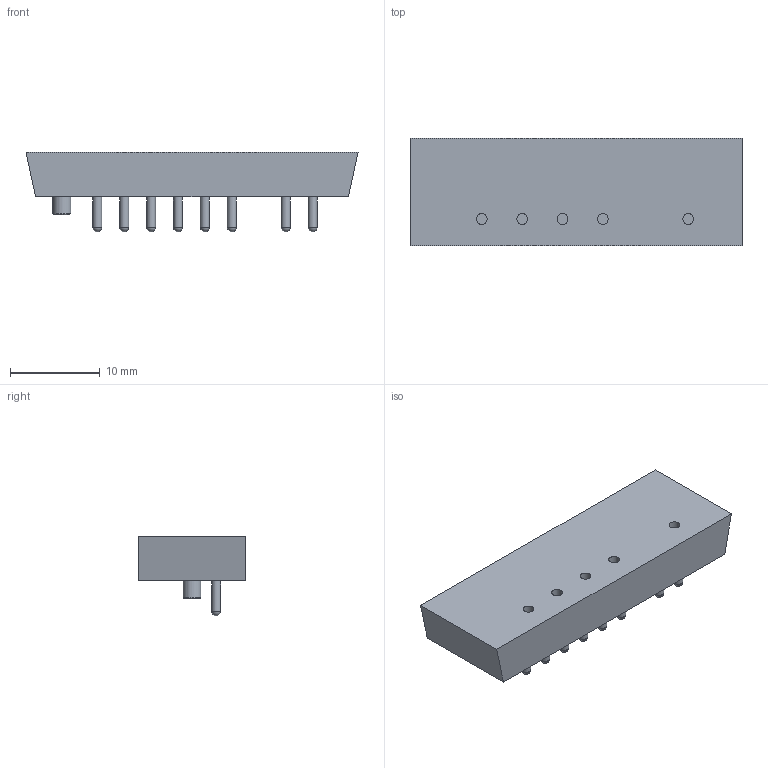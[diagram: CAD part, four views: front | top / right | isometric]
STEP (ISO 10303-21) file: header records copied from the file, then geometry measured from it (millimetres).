
FILE_DESCRIPTION(('STEP AP214'),'1');
FILE_NAME('Shorting link.stp','2017-09-01T11:49:35',(' '),(' '),'Spatial InterOp 3D',' ',' ');
FILE_SCHEMA(('automotive_design'));
Length unit declared in the file: millimetre
Products named in the file (4): Shorting link; Wire link
Assembly tree (10 placements, depth 2):
  Shorting link
    Shorting link
    (unnamed)  x8
    Wire link
Bounding box: 37 x 12 x 8.9 mm (x, y, z)
Volume: 1852.7 mm3; surface area: 1764.7 mm2
Topology: 10 solids, 10 shells, 83 faces, 184 edges, 122 vertices
Faces by surface type: plane 37, cylinder 35, sphere 8, torus 2, cone 1
Full cylindrical faces by diameter (mm): 0.5 x3, 1 x8, 1.2 x5, 2 x1, 4 x1
Entity records: 2277 total; most frequent: DIRECTION 326, CARTESIAN_POINT 282, ORIENTED_EDGE 242, AXIS2_PLACEMENT_3D 132, EDGE_CURVE 121, VERTEX_POINT 88, EDGE_LOOP 85, FACE_OUTER_BOUND 75
